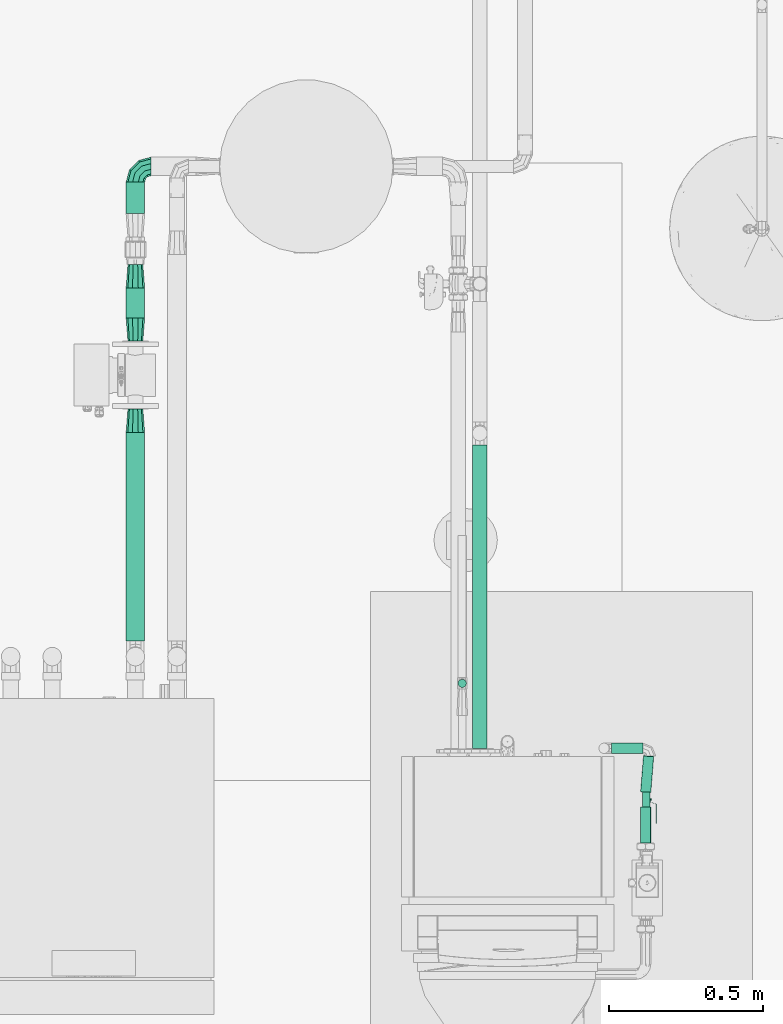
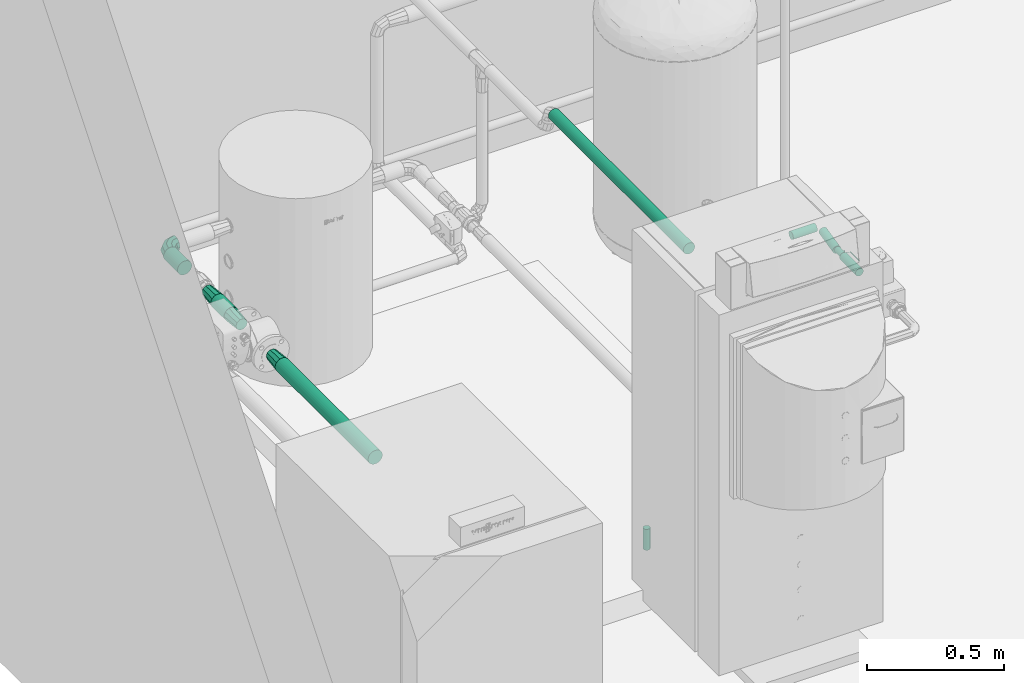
# One storey, part 68 of 94: 8 flow segments, 4 flow fittings, 1 flow controller.
"""IFC2X3 building model written with IfcOpenShell, lengths in millimetres."""

from ifc_helpers import new_model, entity, si_unit, converted_unit, derived_unit, direction, frame, frame_2d, origin, origin_2d_with_axis, place, context, subcontext, project, spatial, polyline, circle_curve, parameter, trimmed, segment, composite_curve, rectangle, circle, hollow_circle, outline, extrude, faceted_brep, source, transform, mapped, material, material_list, type_object, type_shapes, element, save


model = new_model("IFC2X3")

# Units and contexts
model_context = context("Model", 3, precision=0.01, world=origin(), true_north=direction((6.123031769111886e-17, 1.0)))
body_context = subcontext(model_context, "Body", "Model", "MODEL_VIEW")
ifc_project = project(units=[si_unit("LENGTHUNIT", "METRE", prefix="MILLI"), si_unit("AREAUNIT", "SQUARE_METRE"), si_unit("VOLUMEUNIT", "CUBIC_METRE"), converted_unit("PLANEANGLEUNIT", "DEGREE", entity("IfcRatioMeasure", 0.017453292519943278), si_unit("PLANEANGLEUNIT", "RADIAN"), dimensions=[0, 0, 0, 0, 0, 0, 0]), si_unit("MASSUNIT", "GRAM", prefix="KILO"), derived_unit("MASSDENSITYUNIT", [(si_unit("MASSUNIT", "GRAM", prefix="KILO"), 1), (si_unit("LENGTHUNIT", "METRE"), -3)]), derived_unit("IONCONCENTRATIONUNIT", [(si_unit("MASSUNIT", "GRAM", prefix="KILO"), 1), (si_unit("LENGTHUNIT", "METRE"), -3)]), derived_unit("MOMENTOFINERTIAUNIT", [(si_unit("LENGTHUNIT", "METRE"), 4)]), si_unit("TIMEUNIT", "SECOND"), si_unit("FREQUENCYUNIT", "HERTZ"), si_unit("THERMODYNAMICTEMPERATUREUNIT", "DEGREE_CELSIUS"), derived_unit("THERMALTRANSMITTANCEUNIT", [(si_unit("MASSUNIT", "GRAM", prefix="KILO"), 1), (si_unit("THERMODYNAMICTEMPERATUREUNIT", "KELVIN"), -1), (si_unit("TIMEUNIT", "SECOND"), -3)]), derived_unit("THERMALCONDUCTANCEUNIT", [(si_unit("MASSUNIT", "GRAM", prefix="KILO"), 1), (si_unit("THERMODYNAMICTEMPERATUREUNIT", "KELVIN"), -1), (si_unit("TIMEUNIT", "SECOND"), -3), (si_unit("LENGTHUNIT", "METRE"), 1)]), derived_unit("VOLUMETRICFLOWRATEUNIT", [(si_unit("LENGTHUNIT", "METRE"), 3), (si_unit("TIMEUNIT", "SECOND"), -1)]), derived_unit("MASSFLOWRATEUNIT", [(si_unit("MASSUNIT", "GRAM", prefix="KILO"), 1), (si_unit("TIMEUNIT", "SECOND"), -1)]), derived_unit("ROTATIONALFREQUENCYUNIT", [(si_unit("TIMEUNIT", "SECOND"), -1)]), si_unit("ELECTRICCURRENTUNIT", "AMPERE"), si_unit("ELECTRICVOLTAGEUNIT", "VOLT"), si_unit("POWERUNIT", "WATT"), si_unit("FORCEUNIT", "NEWTON", prefix="KILO"), si_unit("ILLUMINANCEUNIT", "LUX"), si_unit("LUMINOUSFLUXUNIT", "LUMEN"), si_unit("LUMINOUSINTENSITYUNIT", "CANDELA"), derived_unit("USERDEFINED", [(si_unit("MASSUNIT", "GRAM", prefix="KILO"), -1), (si_unit("LENGTHUNIT", "METRE"), -2), (si_unit("TIMEUNIT", "SECOND"), 3), (si_unit("LUMINOUSFLUXUNIT", "LUMEN"), 1)]), derived_unit("USERDEFINED", [(si_unit("MASSUNIT", "GRAM", prefix="KILO"), 1), (si_unit("TIMEUNIT", "SECOND"), -3), (si_unit("LENGTHUNIT", "METRE"), 3), (si_unit("ELECTRICCURRENTUNIT", "AMPERE"), -2)]), derived_unit("SOUNDPOWERUNIT", [(si_unit("MASSUNIT", "GRAM", prefix="KILO"), 1), (si_unit("TIMEUNIT", "SECOND"), -3), (si_unit("LENGTHUNIT", "METRE"), 2)]), derived_unit("SOUNDPRESSUREUNIT", [(si_unit("MASSUNIT", "GRAM", prefix="KILO"), 1), (si_unit("LENGTHUNIT", "METRE"), -1), (si_unit("TIMEUNIT", "SECOND"), -2)]), derived_unit("LINEARVELOCITYUNIT", [(si_unit("LENGTHUNIT", "METRE"), 1), (si_unit("TIMEUNIT", "SECOND"), -1)]), si_unit("PRESSUREUNIT", "PASCAL"), derived_unit("USERDEFINED", [(si_unit("MASSUNIT", "GRAM", prefix="KILO"), 1), (si_unit("LENGTHUNIT", "METRE"), -2), (si_unit("TIMEUNIT", "SECOND"), -2)]), derived_unit("LINEARFORCEUNIT", [(si_unit("MASSUNIT", "GRAM", prefix="KILO"), 1), (si_unit("TIMEUNIT", "SECOND"), -2)]), derived_unit("PLANARFORCEUNIT", [(si_unit("MASSUNIT", "GRAM", prefix="KILO"), 1), (si_unit("LENGTHUNIT", "METRE"), -1), (si_unit("TIMEUNIT", "SECOND"), -2)]), derived_unit("SPECIFICHEATCAPACITYUNIT", [(si_unit("THERMODYNAMICTEMPERATUREUNIT", "KELVIN"), -1), (si_unit("LENGTHUNIT", "METRE"), 2), (si_unit("TIMEUNIT", "SECOND"), -2)]), derived_unit("HEATINGVALUEUNIT", [(si_unit("LENGTHUNIT", "METRE"), 2), (si_unit("TIMEUNIT", "SECOND"), -2)]), derived_unit("VAPORPERMEABILITYUNIT", [(si_unit("LENGTHUNIT", "METRE"), -1), (si_unit("TIMEUNIT", "SECOND"), 1)]), derived_unit("DYNAMICVISCOSITYUNIT", [(si_unit("MASSUNIT", "GRAM", prefix="KILO"), 1), (si_unit("TIMEUNIT", "SECOND"), -1), (si_unit("LENGTHUNIT", "METRE"), -1)]), derived_unit("THERMALEXPANSIONCOEFFICIENTUNIT", [(si_unit("THERMODYNAMICTEMPERATUREUNIT", "KELVIN"), -1)]), derived_unit("MODULUSOFELASTICITYUNIT", [(si_unit("MASSUNIT", "GRAM", prefix="KILO"), 1), (si_unit("LENGTHUNIT", "METRE"), -1), (si_unit("TIMEUNIT", "SECOND"), -2)]), derived_unit("ISOTHERMALMOISTURECAPACITYUNIT", [(si_unit("LENGTHUNIT", "METRE"), 3), (si_unit("MASSUNIT", "GRAM", prefix="KILO"), -1)]), derived_unit("MOISTUREDIFFUSIVITYUNIT", [(si_unit("TIMEUNIT", "SECOND"), -1), (si_unit("LENGTHUNIT", "METRE"), 2)])], contexts=[model_context])

# Site, building, storey
site_placement = place(None, origin())
site = spatial("IfcSite", under=ifc_project, at=site_placement, Name="Default", CompositionType="ELEMENT")
building_placement = place(site_placement, origin())
building = spatial("IfcBuilding", under=site, at=building_placement, CompositionType="ELEMENT")
storey_placement = place(building_placement, origin())
storey = spatial("IfcBuildingStorey", under=building, at=storey_placement, Name="Niveau 0", CompositionType="ELEMENT", Elevation=0.0)

# Flow segments
pipe_segment_type_1 = type_object("IfcPipeSegmentType", Name="Canalisation:Bride acier", PredefinedType="NOTDEFINED")
flow_segment_1_placement = place(storey_placement, origin())
element("IfcFlowSegment", 1, at=flow_segment_1_placement, inside=storey, type_object=pipe_segment_type_1, Name="Canalisation:Bride acier", ObjectType="Canalisation:Bride acier", context=body_context, shape_type="SweptSolid", body=[
    extrude(circle(Radius=24.13, at=frame_2d((0.0, -2.707167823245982e-13), x_axis=(1.0, 0.0))), frame((-11799.29070422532, 7396.162425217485, 1466.233167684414), z_axis=(0.0, 1.0, 0.0), x_axis=(1.0, 0.0, 0.0)), (0.0, 0.0, 1.0), 984.2089663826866),
])
flow_segment_2_placement = place(storey_placement, origin())
element("IfcFlowSegment", 2, at=flow_segment_2_placement, inside=storey, type_object=pipe_segment_type_1, Name="Canalisation:Bride acier", ObjectType="Canalisation:Bride acier", context=body_context, shape_type="SweptSolid", body=[
    extrude(circle(Radius=16.7005, at=origin_2d_with_axis()), frame((-11371.001751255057, 7396.071425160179, 1374.400485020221), z_axis=(1.0, 0.0, 0.0), x_axis=(0.0, -1.0, 0.0)), (0.0, 0.0, 1.0), 101.5246023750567),
])
flow_segment_3_placement = place(storey_placement, origin())
element("IfcFlowSegment", 3, at=flow_segment_3_placement, inside=storey, type_object=pipe_segment_type_1, Name="Canalisation:Bride acier", ObjectType="Canalisation:Bride acier", context=body_context, shape_type="SweptSolid", body=[
    extrude(circle(Radius=16.7005, at=frame_2d((-8.700932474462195e-14, 8.725570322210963e-14), x_axis=(1.0, 0.0))), frame((-11260.489434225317, 7254.312349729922, 1358.2331676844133), z_axis=(0.08008789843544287, 0.9935043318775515, 0.08083978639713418), x_axis=(0.9967666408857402, -0.08035087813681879, 0.0)), (0.0, 0.0, 1.0), 117.52246234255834),
])
flow_segment_4_placement = place(storey_placement, origin())
element("IfcFlowSegment", 4, at=flow_segment_4_placement, inside=storey, type_object=pipe_segment_type_1, Name="Canalisation:Bride acier", ObjectType="Canalisation:Bride acier", context=body_context, shape_type="SweptSolid", body=[
    extrude(circle(Radius=16.7005, at=origin_2d_with_axis()), frame((-11260.48943422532, 7089.070775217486, 1358.2331676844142), z_axis=(0.0, 1.0, 0.0), x_axis=(1.0, 0.0, 0.0)), (0.0, 0.0, 1.0), 116.24157451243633),
])
pipe_segment_type_2 = type_object("IfcPipeSegmentType", Name="Canalisation:Standard", PredefinedType="NOTDEFINED")
flow_segment_5_placement = place(storey_placement, origin())
element("IfcFlowSegment", 5, at=flow_segment_5_placement, inside=storey, type_object=pipe_segment_type_2, Name="Canalisation:Standard", ObjectType="Canalisation:Standard", context=body_context, shape_type="SweptSolid", body=[
    extrude(circle(Radius=30.162500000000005, at=frame_2d((0.0, 1.353583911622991e-13), x_axis=(1.0, 0.0))), frame((-12917.538466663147, 9132.899611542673, 718.3753033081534), z_axis=(0.0, 1.0, 0.0), x_axis=(1.0, 0.0, 0.0)), (0.0, 0.0, 1.0), 101.57806747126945),
])
flow_segment_6_placement = place(storey_placement, origin())
element("IfcFlowSegment", 6, at=flow_segment_6_placement, inside=storey, type_object=pipe_segment_type_2, Name="Canalisation:Standard", ObjectType="Canalisation:Standard", context=body_context, shape_type="SweptSolid", body=[
    extrude(circle(Radius=30.162500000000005, at=origin_2d_with_axis()), frame((-12917.538466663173, 7744.870281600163, 718.3753033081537), z_axis=(0.0, 1.0, 0.0), x_axis=(1.0, 0.0, 0.0)), (0.0, 0.0, 1.0), 677.2422550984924),
])
flow_segment_7_placement = place(storey_placement, origin())
element("IfcFlowSegment", 7, at=flow_segment_7_placement, inside=storey, type_object=pipe_segment_type_2, Name="Canalisation:Standard", ObjectType="Canalisation:Standard", context=body_context, shape_type="SweptSolid", body=[
    extrude(circle(Radius=30.162500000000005, at=frame_2d((0.0, 1.353583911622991e-13), x_axis=(1.0, 0.0))), frame((-12917.53846666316, 8794.112536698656, 718.3753033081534), z_axis=(0.0, 1.0, 0.0), x_axis=(1.0, 0.0, 0.0)), (0.0, 0.0, 1.0), 96.7870748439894),
])
flow_segment_8_placement = place(storey_placement, origin())
element("IfcFlowSegment", 8, at=flow_segment_8_placement, inside=storey, type_object=pipe_segment_type_2, Name="Canalisation:Standard", ObjectType="Canalisation:Standard", context=body_context, shape_type="SweptSolid", body=[
    extrude(circle(Radius=13.335000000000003, at=origin_2d_with_axis()), frame((-11856.289788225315, 7607.025064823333, 25.37148238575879)), (0.0, 0.0, 1.0), 92.94996654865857),
])

# Flow fittings
ifc_material_1 = material(Name="<Unnamed>")
pipe_fitting_type_1 = type_object("IfcPipeFittingType", Name="Coude - Générique:Standard", PredefinedType="NOTDEFINED", material=ifc_material_1)
shared_shape_1 = source(origin(), body_context, "Body", "Brep", [
    faceted_brep([(19.27796151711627, 10.424999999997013, 0.0), (14.291268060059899, 13.30406880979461, -17.72172535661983), (24.391862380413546, 51.0, -17.72172535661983), (30.15000000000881, 51.0, 0.0), (1.2359350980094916, 20.841568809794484, -28.674353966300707), (9.31686238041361, 51.0, -28.674353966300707), (-14.901343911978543, 30.158431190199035, -28.674353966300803), (-9.316862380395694, 51.0, -28.674353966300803), (-27.95667687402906, 37.695931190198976, -17.721725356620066), (-24.391862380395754, 51.0, -17.721725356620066), (-32.943370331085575, 40.574999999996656, 0.0), (-30.149999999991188, 51.0, 0.0), (-27.956676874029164, 37.69593119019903, 17.721725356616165), (-24.391862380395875, 51.0, 17.721725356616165), (-14.901343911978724, 30.158431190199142, 28.67435396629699), (-9.316862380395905, 51.0, 28.67435396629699), (1.235935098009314, 20.841568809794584, 28.674353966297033), (9.31686238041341, 51.0, 28.674353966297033), (14.291268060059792, 13.304068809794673, 17.721725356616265), (24.391862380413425, 51.0, 17.721725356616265), (-10.424999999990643, -19.277961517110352, 0.0), (-13.304068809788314, -14.291268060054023, -17.72172535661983), (-20.841568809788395, -1.2359350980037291, -28.674353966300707), (-30.15843119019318, 14.901343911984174, -28.674353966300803), (-37.69593119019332, 27.95667687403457, -17.721725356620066), (-40.57499999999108, 32.943370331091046, 0.0), (-37.69593119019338, 27.956676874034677, 17.721725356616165), (-30.158431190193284, 14.901343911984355, 28.67435396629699), (-20.841568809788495, -1.2359350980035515, 28.674353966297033), (-13.304068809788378, -14.291268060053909, 17.721725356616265), (-51.0, -30.1500000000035, 0.0), (-51.0, -24.39186238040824, -17.72172535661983), (-51.0, -9.316862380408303, -28.674353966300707), (-51.0, 9.316862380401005, -28.674353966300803), (-51.0, 24.391862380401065, -17.721725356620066), (-51.0, 30.1499999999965, 0.0), (-51.0, 24.391862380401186, 17.721725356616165), (-51.0, 9.316862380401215, 28.67435396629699), (-51.0, -9.316862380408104, 28.674353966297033), (-51.0, -24.391862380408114, 17.721725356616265)], [[[0, 1, 2, 3]], [[1, 4, 5, 2]], [[4, 6, 7, 5]], [[6, 8, 9, 7]], [[8, 10, 11, 9]], [[10, 12, 13, 11]], [[12, 14, 15, 13]], [[14, 16, 17, 15]], [[16, 18, 19, 17]], [[18, 0, 3, 19]], [[20, 21, 1, 0]], [[21, 22, 4, 1]], [[22, 23, 6, 4]], [[23, 24, 8, 6]], [[24, 25, 10, 8]], [[25, 26, 12, 10]], [[26, 27, 14, 12]], [[27, 28, 16, 14]], [[28, 29, 18, 16]], [[29, 20, 0, 18]], [[30, 31, 21, 20]], [[31, 32, 22, 21]], [[32, 33, 23, 22]], [[33, 34, 24, 23]], [[34, 35, 25, 24]], [[35, 36, 26, 25]], [[36, 37, 27, 26]], [[37, 38, 28, 27]], [[38, 39, 29, 28]], [[39, 30, 20, 29]], [[3, 2, 5, 7, 9, 11, 13, 15, 17, 19]], [[39, 38, 37, 36, 35, 34, 33, 32, 31, 30]]]),
])
type_shapes(pipe_fitting_type_1, [shared_shape_1])
flow_fitting_placement = place(storey_placement, frame((-12917.538466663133, 9285.477679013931, 718.375303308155), z_axis=(0.0, 0.0, 1.0), x_axis=(-1.0, 0.0, 0.0)))
element("IfcFlowFitting", 9, at=flow_fitting_placement, inside=storey, type_object=pipe_fitting_type_1, material=ifc_material_1, Name="Coude - Générique:Standard", ObjectType="Coude - Générique:Standard", context=body_context, shape_type="MappedRepresentation", body=[
    mapped(shared_shape_1, transform((0.0, 0.0, 0.0), scale=1.0)),
])
pipe_fitting_type_2 = type_object("IfcPipeFittingType", Name="Transformation - Générique:Standard", PredefinedType="NOTDEFINED", material=ifc_material_1)
shared_shape_2 = source(origin(), body_context, "Body", "Brep", [
    faceted_brep([(76.0, 24.149999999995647, 0.0), (76.0, 21.843880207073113, 7.097506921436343), (76.0, 19.53776041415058, 14.195013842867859), (76.0, 13.500260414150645, 18.5815143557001), (76.0, 7.462760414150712, 22.968014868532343), (76.0, 0.0, 22.9680148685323), (76.0, -7.462760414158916, 22.968014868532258), (76.0, -13.500260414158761, 18.581514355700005), (76.0, -19.53776041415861, 14.195013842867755), (76.0, -21.843880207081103, 7.097506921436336), (76.0, -24.15000000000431, 0.0), (76.0, -21.843880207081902, -7.09750692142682), (76.0, -19.537760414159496, -14.195013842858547), (76.0, -13.500260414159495, -18.581514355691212), (76.0, -7.4627604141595, -22.96801486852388), (76.0, 0.0, -22.968014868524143), (76.0, 7.462760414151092, -22.968014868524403), (76.0, 13.50026041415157, -18.581514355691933), (76.0, 19.537760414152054, -14.195013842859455), (76.0, 21.84388020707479, -7.097506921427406), (0.0, -30.149999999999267, 0.0), (0.0, -27.270931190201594, 8.860862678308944), (0.0, -24.39186238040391, 17.721725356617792), (0.0, -16.85436238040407, 23.19803966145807), (0.0, -9.316862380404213, 28.674353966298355), (0.0, 0.0, 28.67435396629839), (0.0, 9.316862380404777, 28.674353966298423), (0.0, 16.854362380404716, 23.198039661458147), (0.0, 24.391862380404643, 17.721725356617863), (0.0, 26.332850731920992, 11.747977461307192), (0.0, 28.24142536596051, 5.873988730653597), (0.0, 30.150000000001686, 0.0), (0.0, 27.270931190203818, -8.860862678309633), (0.0, 24.391862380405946, -17.721725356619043), (0.0, 16.854362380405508, -23.198039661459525), (0.0, 9.316862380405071, -28.674353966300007), (0.0, 0.0, -28.674353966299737), (0.0, -9.316862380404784, -28.674353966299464), (0.0, -16.85436238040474, -23.198039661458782), (0.0, -24.39186238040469, -17.721725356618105), (0.0, -26.332850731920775, -11.747977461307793), (0.0, -28.241425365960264, -5.873988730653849)], [[[0, 1, 2, 3, 4, 5, 6, 7, 8, 9, 10, 11, 12, 13, 14, 15, 16, 17, 18, 19]], [[20, 21, 22, 23, 24, 25, 26, 27, 28, 29, 30, 31, 32, 33, 34, 35, 36, 37, 38, 39, 40, 41]], [[19, 18, 33, 32, 31, 0]], [[36, 35, 16, 15, 14, 37]], [[35, 34, 33, 18, 17, 16]], [[41, 40, 39, 12, 11, 10, 20]], [[14, 13, 12, 39, 38, 37]], [[9, 8, 22, 21, 20, 10]], [[25, 24, 6, 5, 4, 26]], [[24, 23, 22, 8, 7, 6]], [[30, 29, 28, 2, 1, 0, 31]], [[4, 3, 2, 28, 27, 26]]]),
])
type_shapes(pipe_fitting_type_2, [shared_shape_2])
for number, where, z_axis, x_axis in (
    (10, (-12917.53846666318, 8422.112536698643, 718.3753033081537), (0.0, 0.0, 1.0), (0.0, 1.0, 0.0)),
    (11, (-12917.538466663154, 8794.112536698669, 718.3753033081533), (0.0, 0.0, 1.0), (0.0, -1.0, 0.0)),
    (12, (-12917.538466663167, 8890.899611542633, 718.3753033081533), (0.0, 0.0, 1.0), (0.0, 1.0, 0.0)),
):
    element("IfcFlowFitting", number, at=place(storey_placement, frame(where, z_axis=z_axis, x_axis=x_axis)), inside=storey, type_object=pipe_fitting_type_2, material=ifc_material_1, Name="Transformation - Générique:Standard", ObjectType="Transformation - Générique:Standard", context=body_context, shape_type="MappedRepresentation", body=[
        mapped(shared_shape_2, transform((0.0, 0.0, 0.0), scale=1.0)),
    ])

# Flow controller
ifc_material_2 = material(Name="Métal corps")
ifc_material_3 = material(Name="Jaune Manche")
ifc_material_list = material_list([ifc_material_2, ifc_material_3])
valve_type = type_object("IfcValveType", Name="Gaz naturel - Vanne isolement:DN 10", PredefinedType="NOTDEFINED", material=ifc_material_list)
shared_shape_3 = source(origin(), body_context, "Body", "SweptSolid", [
    extrude(circle(Radius=12.5, at=frame_2d((6.991064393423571e-16, -2.0194307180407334e-14), x_axis=(1.0, 0.0))), frame((-24.49999999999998, 0.0, 0.0), z_axis=(1.0, 0.0, 0.0), x_axis=(0.0, 1.0, 0.0)), (0.0, 0.0, 1.0), 48.99999999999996),
    extrude(hollow_circle(Radius=12.500000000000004, WallThickness=5.000000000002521, at=frame_2d((-6.498789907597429e-17, -2.019430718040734e-14), x_axis=(1.0, 0.0))), frame((-19.249999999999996, 0.0, 0.0), z_axis=(1.0, 0.0, 0.0), x_axis=(0.0, 1.0, 0.0)), (0.0, 0.0, 1.0), 38.49999999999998),
    extrude(circle(Radius=3.5, at=frame_2d((4.306164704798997e-17, -5.654406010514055e-15), x_axis=(1.0, 0.0))), frame((0.0, 0.0, 7.499999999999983)), (0.0, 0.0, 1.0), 9.999999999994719),
    extrude(rectangle(XDim=63.30000000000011, YDim=3.3333333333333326, at=origin_2d_with_axis()), frame((46.35000000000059, 0.0, 31.400000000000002), z_axis=(0.0, 0.0, 1.0), x_axis=(-1.0, 0.0, 0.0)), (0.0, 0.0, 1.0), 2.599999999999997),
    extrude(outline(composite_curve([segment(trimmed(circle_curve(origin_2d_with_axis(), 12.5), [parameter(180.0)], [parameter(3.5622212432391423e-13)], True, "PARAMETER"), True, "CONTINUOUS"), segment(trimmed(circle_curve(origin_2d_with_axis(), 12.5), [parameter(0.0)], [parameter(179.9999999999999)], True, "PARAMETER"), True, "CONTINUOUS")], self_intersect=False), holes=[polyline([(-6.06217782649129, 10.499999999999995), (6.062177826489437, 10.499999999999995), (12.124355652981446, 0.0), (6.0621778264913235, -10.500000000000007), (-6.062177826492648, -10.50000000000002), (-12.124355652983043, 0.0), (-6.06217782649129, 10.499999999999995)])]), frame((-24.49999999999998, 0.0, 0.0), z_axis=(1.0, 0.0, 0.0), x_axis=(0.0, 1.0, 0.0)), (0.0, 0.0, 1.0), 5.249999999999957),
    extrude(outline(composite_curve([segment(trimmed(circle_curve(origin_2d_with_axis(), 12.5), [parameter(359.99999999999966)], [parameter(179.99999999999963)], True, "PARAMETER"), True, "CONTINUOUS"), segment(trimmed(circle_curve(origin_2d_with_axis(), 12.5), [parameter(180.00000000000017)], [parameter(359.9999999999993)], True, "PARAMETER"), True, "CONTINUOUS")], self_intersect=False), holes=[polyline([(-6.062177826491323, 10.500000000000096), (6.0621778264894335, 10.500000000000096), (12.124355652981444, 0.0), (6.062177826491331, -10.499999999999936), (-6.062177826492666, -10.499999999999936), (-12.124355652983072, 0.0), (-6.062177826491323, 10.500000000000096)])]), frame((19.249999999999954, 0.0, 0.0), z_axis=(1.0, 0.0, 0.0), x_axis=(0.0, 1.0, 0.0)), (0.0, 0.0, 1.0), 5.250000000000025),
    extrude(outline(composite_curve([segment(polyline([(-4.250000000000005, -3.5), (4.250000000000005, -3.5)]), True, "CONTINUOUS"), segment(polyline([(4.250000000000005, -3.4999999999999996), (4.250000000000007, 3.4999999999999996)]), True, "CONTINUOUS"), segment(polyline([(4.250000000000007, 3.4999999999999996), (-4.249999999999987, 3.5000000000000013)]), True, "CONTINUOUS"), segment(trimmed(circle_curve(frame_2d((-4.249999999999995, 0.0), x_axis=(1.0, 0.0)), 3.5), [parameter(269.9999999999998)], [parameter(89.99999999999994)], True, "PARAMETER"), False, "CONTINUOUS")], self_intersect=False)), frame((4.249999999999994, 0.0, 12.499999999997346)), (0.0, 0.0, 1.0), 1.2999999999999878),
    extrude(outline(polyline([(-10.425000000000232, -3.099999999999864), (-9.125000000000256, -3.099999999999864), (10.42500000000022, 3.099999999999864), (9.125000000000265, 3.099999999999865), (-10.425000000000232, -3.099999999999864)])), frame((11.599999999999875, -0.8333333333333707, 22.92499999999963), z_axis=(0.0, 1.0, 0.0), x_axis=(0.0, 0.0, -1.0)), (0.0, 0.0, 1.0), 1.6666666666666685),
])
type_shapes(valve_type, [shared_shape_3])
flow_controller_placement = place(storey_placement, frame((-11258.945537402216, 7229.812349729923, 1359.7926594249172), z_axis=(1.0, 0.0, 0.0), x_axis=(0.0, -1.0, 0.0)))
element("IfcFlowController", 13, at=flow_controller_placement, inside=storey, type_object=valve_type, material=ifc_material_list, Name="Gaz naturel - Vanne isolement:DN 10", ObjectType="Gaz naturel - Vanne isolement:DN 10", context=body_context, shape_type="MappedRepresentation", body=[
    mapped(shared_shape_3, transform((0.0, 0.0, 0.0), scale=1.0)),
])

save(model, "model.ifc")
